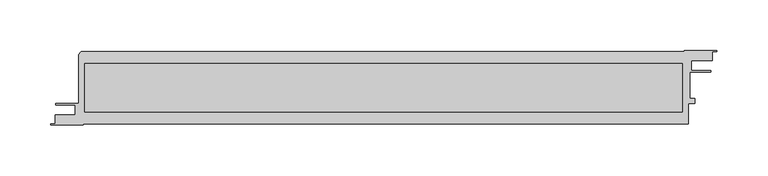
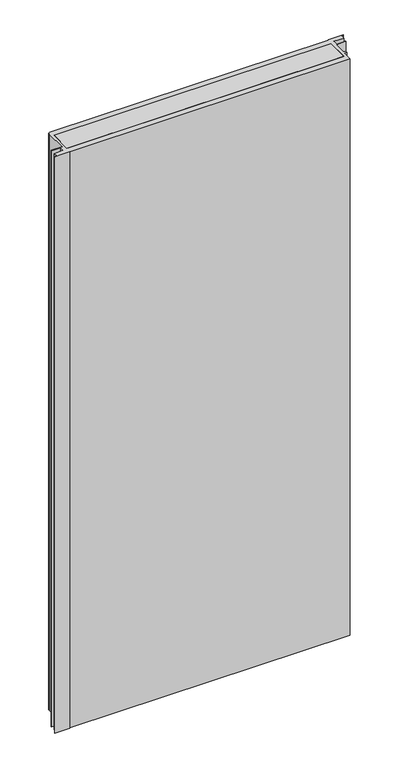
"""IFC4 building model written with IfcOpenShell, lengths in millimetres: plate geometry, Walls_External-Walls_Danpal_Danpatherm-K7-with-AIRPT-Frame : Walls_External-Walls_Danpal_Danpatherm-K7-with-AIRPT-Frame."""

from ifc_helpers import new_model, si_unit, point, frame, frame_2d, origin, place, context, project, spatial, polyline, circle_curve, trimmed, segment, composite_curve, outline, extrude, source, transform, mapped, element, save


def plate_d8b1bd5c(model_context):
    return source(origin(), model_context, "Body", "SweptSolid", [
        extrude(outline(polyline([(279.3176513, 12.7999917), (-309.4036211, 12.7999917), (-309.4036211, 60.3432727), (279.3176513, 60.3432727), (279.3176513, 12.7999917)])), frame((0.0, 0.0, -22.0), z_axis=(0.0, 0.0, 1.0), x_axis=(1.0, 0.0, 0.0)), (0.0, 0.0, 1.0), 1294.159327),
        extrude(outline(composite_curve([segment(polyline([(307.1570352, 53.4717617), (307.1570352, 52.1717185), (286.2570144, 52.1717185), (286.2570144, 26.0716456), (291.2570149, 26.0716456), (291.2570149, 20.9715623), (284.9570149, 20.9715623), (284.9570149, 0.8), (-310.7429914, 0.8), (-310.7429914, 0.0), (-342.6429914, 0.0), (-342.6429914, 0.8), (-338.4429914, 0.8), (-338.4429914, 9.7656785), (-318.6132316, 9.7656785), (-318.6132316, 19.6715177), (-337.5693772, 19.6715177), (-337.5693772, 20.9715623), (-315.0, 20.9715623), (-315.0, 68.5003761)]), True, "CONTINUOUS"), segment(trimmed(circle_curve(frame_2d((-311.1570911, 68.5003761)), 3.8429089), [point((-315.0, 68.5003761))], [point((-311.1570911, 72.343285))], False, "CARTESIAN"), True, "CONTINUOUS"), segment(polyline([(-311.1570911, 72.343285), (281.0568579, 72.343285), (281.0568579, 73.143285), (312.9568579, 73.143285), (312.9568579, 72.343285), (308.6568579, 72.343285), (308.6568579, 63.4717658), (287.7588048, 63.4717658), (287.7588048, 53.4717617), (307.1570352, 53.4717617)]), True, "CONTINUOUS")], self_intersect=False), holes=[polyline([(279.3176513, 12.7999917), (279.3176513, 60.3432727), (-309.4036211, 60.3432727), (-309.4036211, 12.7999917), (279.3176513, 12.7999917)])]), frame((0.0, 0.0, -22.0), z_axis=(0.0, 0.0, 1.0), x_axis=(1.0, 0.0, 0.0)), (0.0, 0.0, 1.0), 1294.159327),
    ])


if __name__ == "__main__":
    model = new_model("IFC4")
    model_context = context("Model", 3, world=origin())
    ifc_project = project(units=[si_unit("LENGTHUNIT", "METRE", prefix="MILLI")], contexts=[model_context])
    site = spatial("IfcSite", under=ifc_project)
    building = spatial("IfcBuilding", under=site)
    placement = place(None, origin())
    plate_shape = plate_d8b1bd5c(model_context)
    element("IfcPlate", 1, ObjectType="Walls_External-Walls_Danpal_Danpatherm-K7-with-AIRPT-Frame : Walls_External-Walls_Danpal_Danpatherm-K7-with-AIRPT-Frame", at=placement, inside=building, context=model_context, shape_type="MappedRepresentation", body=[
        mapped(plate_shape, transform((0.0, 0.0, 0.0), x_axis=(1.0, 0.0, 0.0), y_axis=(0.0, 1.0, 0.0), z_axis=(0.0, 0.0, 1.0))),
    ])
    save(model, "model.ifc")
